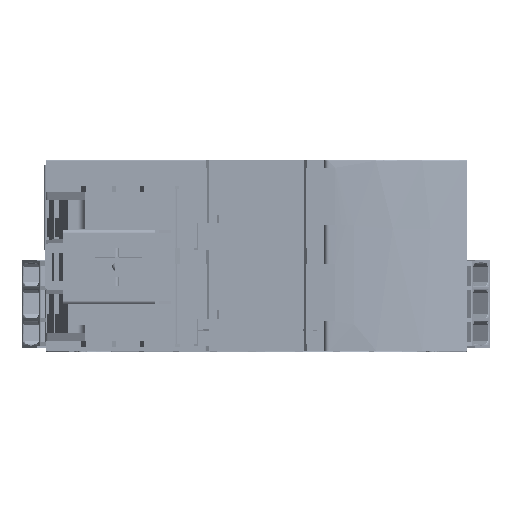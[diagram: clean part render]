
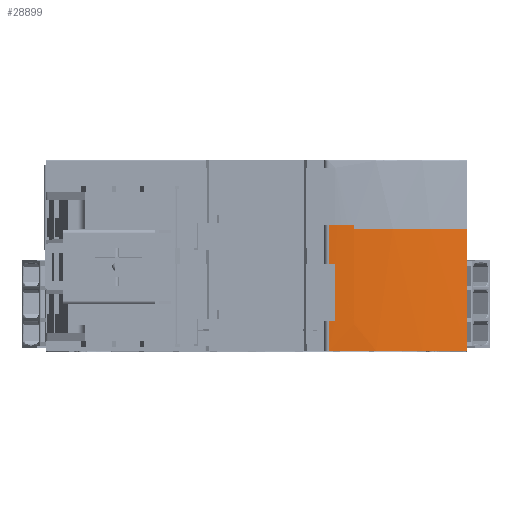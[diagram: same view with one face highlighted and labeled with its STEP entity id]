
A CAD part, top view. The second image highlights one B-rep face of the part: STEP entity #28899.
In plain terms, the highlighted cylindrical face has radius 77.596 mm (diameter 155.192 mm), a partial arc.
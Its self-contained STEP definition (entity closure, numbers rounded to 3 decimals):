
#28899=ADVANCED_FACE('',(#100649,#100651),#100653,.T.);
#100649=FACE_BOUND('',#100650,.T.);
#100650=EDGE_LOOP('',(#160406,#160407,#160408,#160409,#160410,#160411,#160412,#160413,
#160414,#160415));
#100651=FACE_BOUND('',#100652,.T.);
#100652=EDGE_LOOP('',(#160416,#160417,#160418,#160419));
#100653=CYLINDRICAL_SURFACE('',#100654,77.596);
#100654=AXIS2_PLACEMENT_3D('',#100655,#100656,#100657);
#100655=CARTESIAN_POINT('',(16.,-0.1,-77.596));
#100656=DIRECTION('',(0.,1.,0.));
#100657=DIRECTION('',(1.,0.,0.));
#160406=ORIENTED_EDGE('',*,*,#203098,.T.);
#160407=ORIENTED_EDGE('',*,*,#203091,.F.);
#160408=ORIENTED_EDGE('',*,*,#203223,.F.);
#160409=ORIENTED_EDGE('',*,*,#203224,.F.);
#160410=ORIENTED_EDGE('',*,*,#203225,.F.);
#160411=ORIENTED_EDGE('',*,*,#203226,.F.);
#160412=ORIENTED_EDGE('',*,*,#200469,.F.);
#160413=ORIENTED_EDGE('',*,*,#203227,.T.);
#160414=ORIENTED_EDGE('',*,*,#203228,.F.);
#160415=ORIENTED_EDGE('',*,*,#203229,.T.);
#160416=ORIENTED_EDGE('',*,*,#203080,.F.);
#160417=ORIENTED_EDGE('',*,*,#200361,.F.);
#160418=ORIENTED_EDGE('',*,*,#203217,.T.);
#160419=ORIENTED_EDGE('',*,*,#203230,.T.);
#200361=EDGE_CURVE('',#229998,#229996,#230000,.T.);
#200469=EDGE_CURVE('',#230166,#230168,#230169,.T.);
#203080=EDGE_CURVE('',#229996,#234661,#234662,.T.);
#203091=EDGE_CURVE('',#234676,#234678,#234679,.T.);
#203098=EDGE_CURVE('',#234691,#234678,#234692,.T.);
#203217=EDGE_CURVE('',#229998,#234903,#234905,.T.);
#203223=EDGE_CURVE('',#234913,#234676,#234915,.T.);
#203224=EDGE_CURVE('',#234916,#234913,#234917,.T.);
#203225=EDGE_CURVE('',#234918,#234916,#234919,.T.);
#203226=EDGE_CURVE('',#230168,#234918,#234920,.T.);
#203227=EDGE_CURVE('',#230166,#234921,#234922,.T.);
#203228=EDGE_CURVE('',#234923,#234921,#234924,.T.);
#203229=EDGE_CURVE('',#234923,#234691,#234925,.T.);
#203230=EDGE_CURVE('',#234903,#234661,#234926,.T.);
#229996=VERTEX_POINT('',#287418);
#229998=VERTEX_POINT('',#287422);
#230000=CIRCLE('',#287426,77.596);
#230166=VERTEX_POINT('',#287994);
#230168=VERTEX_POINT('',#287998);
#230169=CIRCLE('',#287999,77.596);
#234661=VERTEX_POINT('',#309293);
#234662=LINE('',#309294,#309295);
#234676=VERTEX_POINT('',#309328);
#234678=VERTEX_POINT('',#309332);
#234679=LINE('',#309333,#309334);
#234691=VERTEX_POINT('',#309359);
#234692=CIRCLE('',#309360,77.596);
#234903=VERTEX_POINT('',#309835);
#234905=LINE('',#309839,#309840);
#234913=VERTEX_POINT('',#309857);
#234915=CIRCLE('',#309862,77.596);
#234916=VERTEX_POINT('',#309866);
#234917=LINE('',#309867,#309868);
#234918=VERTEX_POINT('',#309870);
#234919=CIRCLE('',#309871,77.596);
#234920=LINE('',#309875,#309876);
#234921=VERTEX_POINT('',#309878);
#234922=LINE('',#309879,#309880);
#234923=VERTEX_POINT('',#309882);
#234924=CIRCLE('',#309883,77.596);
#234925=LINE('',#309887,#309888);
#234926=CIRCLE('',#309890,77.596);
#287418=CARTESIAN_POINT('',(23.1,6.2,-0.326));
#287422=CARTESIAN_POINT('',(23.,6.2,-0.316));
#287426=AXIS2_PLACEMENT_3D('',#287427,#287428,#287429);
#287427=CARTESIAN_POINT('',(16.,6.2,-77.596));
#287428=DIRECTION('',(0.,1.,0.));
#287429=DIRECTION('',(0.09,0.,0.996));
#287994=CARTESIAN_POINT('',(23.,28.8,-0.316));
#287998=CARTESIAN_POINT('',(49.587,28.8,-7.645));
#287999=AXIS2_PLACEMENT_3D('',#288000,#288001,#288002);
#288000=CARTESIAN_POINT('',(16.,28.8,-77.596));
#288001=DIRECTION('',(0.,1.,0.));
#288002=DIRECTION('',(0.09,0.,0.996));
#309293=CARTESIAN_POINT('',(23.1,7.,-0.326));
#309294=CARTESIAN_POINT('',(23.1,6.2,-0.326));
#309295=VECTOR('',#309296,1.);
#309296=DIRECTION('',(0.,1.,0.));
#309328=CARTESIAN_POINT('',(18.6,7.,-0.044));
#309332=CARTESIAN_POINT('',(18.6,20.5,-0.044));
#309333=CARTESIAN_POINT('',(18.6,7.,-0.044));
#309334=VECTOR('',#309335,1.);
#309335=DIRECTION('',(0.,1.,0.));
#309359=CARTESIAN_POINT('',(17.013,20.5,-0.007));
#309360=AXIS2_PLACEMENT_3D('',#309361,#309362,#309363);
#309361=CARTESIAN_POINT('',(16.,20.5,-77.596));
#309362=DIRECTION('',(0.,1.,0.));
#309363=DIRECTION('',(0.013,0.,1.));
#309835=CARTESIAN_POINT('',(23.,7.,-0.316));
#309839=CARTESIAN_POINT('',(23.,6.2,-0.316));
#309840=VECTOR('',#309841,1.);
#309841=DIRECTION('',(0.,1.,0.));
#309857=CARTESIAN_POINT('',(17.013,7.,-0.007));
#309862=AXIS2_PLACEMENT_3D('',#309863,#309864,#309865);
#309863=CARTESIAN_POINT('',(16.,7.,-77.596));
#309864=DIRECTION('',(0.,1.,0.));
#309865=DIRECTION('',(0.013,0.,1.));
#309866=CARTESIAN_POINT('',(17.013,0.1,-0.007));
#309867=CARTESIAN_POINT('',(17.013,0.1,-0.007));
#309868=VECTOR('',#309869,1.);
#309869=DIRECTION('',(0.,1.,0.));
#309870=CARTESIAN_POINT('',(49.587,0.1,-7.645));
#309871=AXIS2_PLACEMENT_3D('',#309872,#309873,#309874);
#309872=CARTESIAN_POINT('',(16.,0.1,-77.596));
#309873=DIRECTION('',(0.,-1.,0.));
#309874=DIRECTION('',(0.433,0.,0.901));
#309875=CARTESIAN_POINT('',(49.587,28.8,-7.645));
#309876=VECTOR('',#309877,1.);
#309877=DIRECTION('',(0.,-1.,0.));
#309878=CARTESIAN_POINT('',(23.,29.6,-0.316));
#309879=CARTESIAN_POINT('',(23.,28.8,-0.316));
#309880=VECTOR('',#309881,1.);
#309881=DIRECTION('',(0.,1.,0.));
#309882=CARTESIAN_POINT('',(17.013,29.6,-0.007));
#309883=AXIS2_PLACEMENT_3D('',#309884,#309885,#309886);
#309884=CARTESIAN_POINT('',(16.,29.6,-77.596));
#309885=DIRECTION('',(0.,1.,0.));
#309886=DIRECTION('',(0.013,0.,1.));
#309887=CARTESIAN_POINT('',(17.013,29.6,-0.007));
#309888=VECTOR('',#309889,1.);
#309889=DIRECTION('',(0.,-1.,0.));
#309890=AXIS2_PLACEMENT_3D('',#309891,#309892,#309893);
#309891=CARTESIAN_POINT('',(16.,7.,-77.596));
#309892=DIRECTION('',(0.,1.,0.));
#309893=DIRECTION('',(0.09,0.,0.996));
